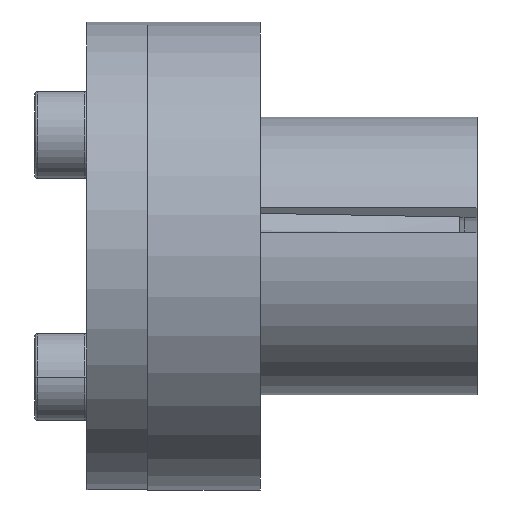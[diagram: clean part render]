
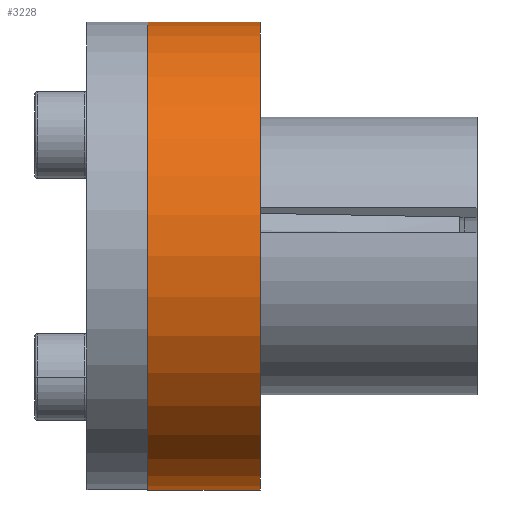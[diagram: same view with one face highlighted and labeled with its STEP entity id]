
A CAD part, front view. The second image highlights one B-rep face of the part: STEP entity #3228.
In plain terms, the highlighted cylindrical face has radius 27 mm (diameter 54 mm), a partial arc.
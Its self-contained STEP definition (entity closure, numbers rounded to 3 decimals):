
#52 = CARTESIAN_POINT ( 'NONE',  ( -14.5, 0., 27. ) ) ;
#349 = VERTEX_POINT ( 'NONE', #426 ) ;
#397 = DIRECTION ( 'NONE',  ( 0., 0., 1. ) ) ;
#410 = VERTEX_POINT ( 'NONE', #2389 ) ;
#416 = ORIENTED_EDGE ( 'NONE', *, *, #506, .F. ) ;
#426 = CARTESIAN_POINT ( 'NONE',  ( -1.5, 0., -27. ) ) ;
#506 = EDGE_CURVE ( 'NONE', #2379, #3770, #3569, .T. ) ;
#610 = CARTESIAN_POINT ( 'NONE',  ( -14.5, 0., 0. ) ) ;
#654 = CARTESIAN_POINT ( 'NONE',  ( -14.5, 0., -27. ) ) ;
#783 = EDGE_LOOP ( 'NONE', ( #2900, #1085, #2250, #416 ) ) ;
#788 = AXIS2_PLACEMENT_3D ( 'NONE', #4018, #3702, #890 ) ;
#890 = DIRECTION ( 'NONE',  ( 0., 0., 1. ) ) ;
#973 = DIRECTION ( 'NONE',  ( -1., 0., 0. ) ) ;
#1017 = EDGE_CURVE ( 'NONE', #349, #410, #2011, .T. ) ;
#1085 = ORIENTED_EDGE ( 'NONE', *, *, #1017, .T. ) ;
#1381 = LINE ( 'NONE', #3854, #3756 ) ;
#1385 = AXIS2_PLACEMENT_3D ( 'NONE', #1965, #973, #397 ) ;
#1407 = EDGE_CURVE ( 'NONE', #349, #2379, #1381, .T. ) ;
#1548 = LINE ( 'NONE', #2658, #2302 ) ;
#1965 = CARTESIAN_POINT ( 'NONE',  ( -1.5, 0., 0. ) ) ;
#1983 = DIRECTION ( 'NONE',  ( -1., 0., 0. ) ) ;
#2011 = CIRCLE ( 'NONE', #1385, 27. ) ;
#2046 = DIRECTION ( 'NONE',  ( -1., 0., 0. ) ) ;
#2244 = CYLINDRICAL_SURFACE ( 'NONE', #788, 27. ) ;
#2250 = ORIENTED_EDGE ( 'NONE', *, *, #3064, .T. ) ;
#2302 = VECTOR ( 'NONE', #2046, 1000. ) ;
#2338 = FACE_OUTER_BOUND ( 'NONE', #783, .T. ) ;
#2379 = VERTEX_POINT ( 'NONE', #654 ) ;
#2389 = CARTESIAN_POINT ( 'NONE',  ( -1.5, 0., 27. ) ) ;
#2658 = CARTESIAN_POINT ( 'NONE',  ( -21.5, 0., 27. ) ) ;
#2900 = ORIENTED_EDGE ( 'NONE', *, *, #1407, .F. ) ;
#3064 = EDGE_CURVE ( 'NONE', #410, #3770, #1548, .T. ) ;
#3228 = ADVANCED_FACE ( 'NONE', ( #2338 ), #2244, .T. ) ;
#3281 = AXIS2_PLACEMENT_3D ( 'NONE', #610, #4012, #3990 ) ;
#3569 = CIRCLE ( 'NONE', #3281, 27. ) ;
#3702 = DIRECTION ( 'NONE',  ( -1., 0., 0. ) ) ;
#3756 = VECTOR ( 'NONE', #1983, 1000. ) ;
#3770 = VERTEX_POINT ( 'NONE', #52 ) ;
#3854 = CARTESIAN_POINT ( 'NONE',  ( -21.5, 0., -27. ) ) ;
#3990 = DIRECTION ( 'NONE',  ( 0., 0., 1. ) ) ;
#4012 = DIRECTION ( 'NONE',  ( -1., 0., 0. ) ) ;
#4018 = CARTESIAN_POINT ( 'NONE',  ( -21.5, 0., 0. ) ) ;
